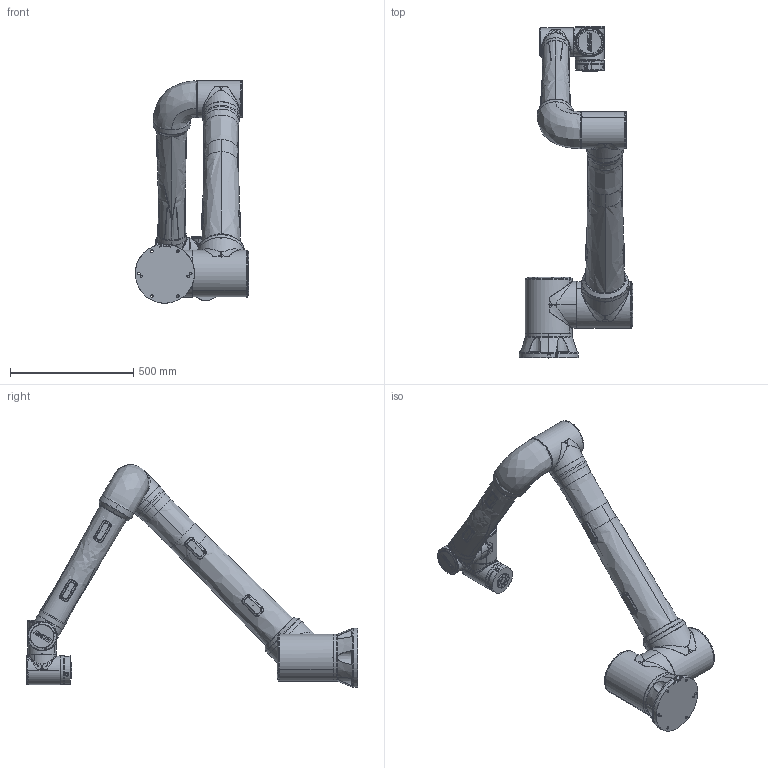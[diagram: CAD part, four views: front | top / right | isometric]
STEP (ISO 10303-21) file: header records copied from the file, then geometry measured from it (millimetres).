
FILE_DESCRIPTION (( 'STEP AP203' ), '1' );
FILE_NAME ('S1854-渲染模型.STEP', '2024-07-29T07:56:33', ( '' ), ( '' ), 'SwSTEP 2.0', 'SolidWorks 2022', '' );
FILE_SCHEMA (( 'CONFIG_CONTROL_DESIGN' ));
Length unit declared in the file: millimetre
Products named in the file (8): S1854-渲染模型; S1854-04.step; S1854-07.step; S1854-03.step; S1854-01.step; S1854-05.step; S1854-06.step; S1854-02.step
Assembly tree (7 placements, depth 2):
  S1854-渲染模型
    S1854-01.step
    S1854-02.step
    S1854-03.step
    S1854-04.step
    S1854-05.step
    S1854-06.step
    S1854-07.step
Bounding box: 460.08 x 1345.5 x 902.11 mm (x, y, z)
Volume: 49229478.6 mm3; surface area: 1732313.4 mm2
Topology: 40 solids, 66 shells, 2774 faces, 6880 edges, 4481 vertices
Faces by surface type: bspline 1073, plane 775, cylinder 666, cone 151, torus 91, sphere 18
Entity records: 334798 total; most frequent: CARTESIAN_POINT 276424, ORIENTED_EDGE 13736, DIRECTION 8622, EDGE_CURVE 6868, VERTEX_POINT 4481, AXIS2_PLACEMENT_3D 3123, EDGE_LOOP 3069, B_SPLINE_CURVE_WITH_KNOTS 3004
